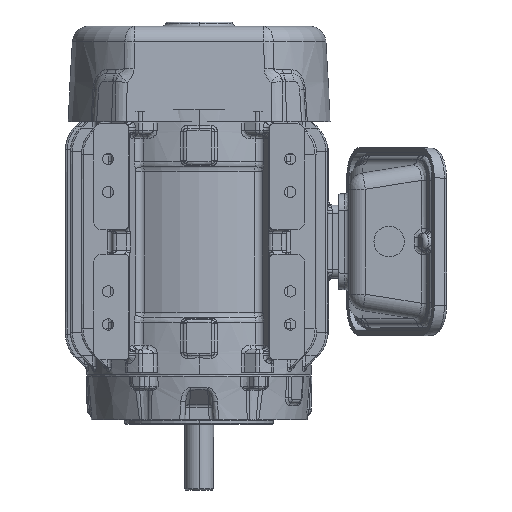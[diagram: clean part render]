
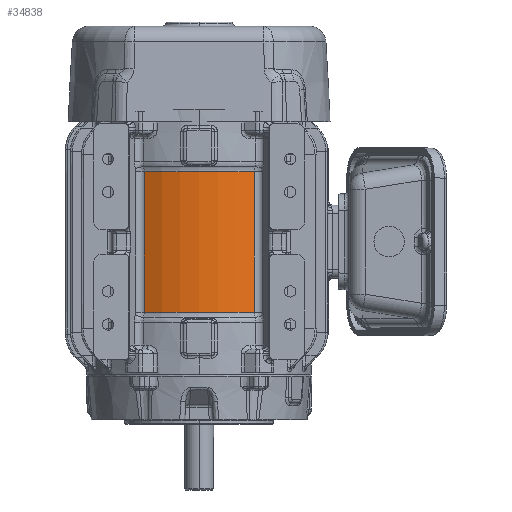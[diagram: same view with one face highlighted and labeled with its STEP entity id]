
A CAD part, front view. The second image highlights one B-rep face of the part: STEP entity #34838.
In plain terms, the highlighted cylindrical face has radius 84.582 mm (diameter 169.164 mm), a partial arc.
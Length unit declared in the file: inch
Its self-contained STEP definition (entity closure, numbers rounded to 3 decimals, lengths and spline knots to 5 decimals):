
#4880=DIRECTION('',(0.,0.,1.));
#4881=VECTOR('',#4880,4.25);
#4882=CARTESIAN_POINT('',(-1.6688,-2.88167,
-2.12));
#4883=LINE('',#4882,#4881);
#4884=DIRECTION('',(0.,0.,-1.));
#4885=VECTOR('',#4884,4.25);
#4886=CARTESIAN_POINT('',(1.6617,-2.88577,2.13));
#4887=LINE('',#4886,#4885);
#4888=CARTESIAN_POINT('',(0.,0.,-2.12));
#4889=DIRECTION('',(0.,0.,-1.));
#4890=DIRECTION('',(0.499,-0.867,0.));
#4891=AXIS2_PLACEMENT_3D('',#4888,#4889,#4890);
#5912=CARTESIAN_POINT('',(0.,0.,2.13));
#5913=DIRECTION('',(0.,0.,-1.));
#5914=DIRECTION('',(0.499,-0.867,0.));
#5915=AXIS2_PLACEMENT_3D('',#5912,#5913,#5914);
#28625=CARTESIAN_POINT('',(-1.66879,-2.88167,2.13));
#28626=VERTEX_POINT('',#28625);
#28628=CARTESIAN_POINT('',(-1.6688,-2.88167,
-2.12));
#28629=VERTEX_POINT('',#28628);
#28644=CARTESIAN_POINT('',(1.6617,-2.88576,-2.12));
#28645=VERTEX_POINT('',#28644);
#28647=CARTESIAN_POINT('',(1.6617,-2.88577,
2.13));
#28648=VERTEX_POINT('',#28647);
#34824=CARTESIAN_POINT('',(0.,0.,-4.5325));
#34825=DIRECTION('',(0.,0.,1.));
#34826=DIRECTION('',(0.,1.,0.));
#34827=AXIS2_PLACEMENT_3D('',#34824,#34825,#34826);
#34828=CYLINDRICAL_SURFACE('',#34827,3.33);
#34830=ORIENTED_EDGE('',*,*,#34829,.T.);
#34832=ORIENTED_EDGE('',*,*,#34831,.F.);
#34834=ORIENTED_EDGE('',*,*,#34833,.T.);
#34835=ORIENTED_EDGE('',*,*,#32841,.T.);
#34836=EDGE_LOOP('',(#34830,#34832,#34834,#34835));
#34837=FACE_OUTER_BOUND('',#34836,.F.);
#34838=ADVANCED_FACE('',(#34837),#34828,.T.);
#4892=CIRCLE('',#4891,3.33);
#5916=CIRCLE('',#5915,3.33);
#32841=EDGE_CURVE('',#28645,#28629,#4892,.T.);
#34829=EDGE_CURVE('',#28629,#28626,#4883,.T.);
#34831=EDGE_CURVE('',#28648,#28626,#5916,.T.);
#34833=EDGE_CURVE('',#28648,#28645,#4887,.T.);
